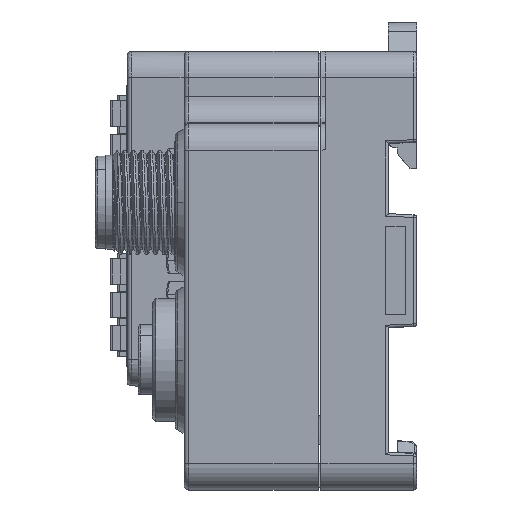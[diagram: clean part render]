
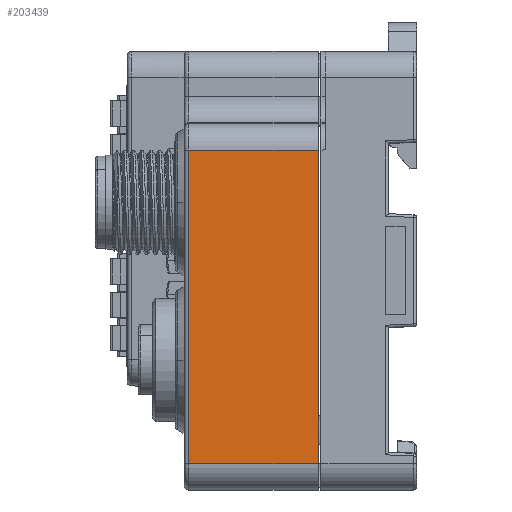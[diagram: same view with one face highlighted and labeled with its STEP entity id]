
A CAD part, left-side view. The second image highlights one B-rep face of the part: STEP entity #203439.
In plain terms, the highlighted planar face has unit normal (-1, 0, 0).
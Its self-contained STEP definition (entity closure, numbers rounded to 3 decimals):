
#197792=DIRECTION('',(0.,0.,-1.));
#197793=VECTOR('',#197792,35.752);
#197794=CARTESIAN_POINT('',(-85.5,-7.7,13.752));
#197795=LINE('',#197794,#197793);
#197796=DIRECTION('',(0.,-1.,0.));
#197797=VECTOR('',#197796,14.8);
#197798=CARTESIAN_POINT('',(-85.5,7.1,-22.));
#197799=LINE('',#197798,#197797);
#197800=DIRECTION('',(0.,0.,1.));
#197801=VECTOR('',#197800,35.752);
#197802=CARTESIAN_POINT('',(-85.5,7.1,-22.));
#197803=LINE('',#197802,#197801);
#197804=DIRECTION('',(0.,1.,0.));
#197805=VECTOR('',#197804,14.8);
#197806=CARTESIAN_POINT('',(-85.5,-7.7,13.752));
#197807=LINE('',#197806,#197805);
#201734=CARTESIAN_POINT('',(-85.5,7.1,-22.));
#201735=CARTESIAN_POINT('',(-85.5,7.1,13.752));
#201736=VERTEX_POINT('',#201734);
#201737=VERTEX_POINT('',#201735);
#201782=CARTESIAN_POINT('',(-85.5,-7.7,-22.));
#201783=CARTESIAN_POINT('',(-85.5,-7.7,13.752));
#201784=VERTEX_POINT('',#201782);
#201785=VERTEX_POINT('',#201783);
#203424=CARTESIAN_POINT('',(-85.5,14.6,-25.));
#203425=DIRECTION('',(-1.,0.,0.));
#203426=DIRECTION('',(0.,0.,1.));
#203427=AXIS2_PLACEMENT_3D('',#203424,#203425,#203426);
#203428=PLANE('',#203427);
#203430=ORIENTED_EDGE('',*,*,#203429,.T.);
#203432=ORIENTED_EDGE('',*,*,#203431,.F.);
#203434=ORIENTED_EDGE('',*,*,#203433,.T.);
#203436=ORIENTED_EDGE('',*,*,#203435,.F.);
#203437=EDGE_LOOP('',(#203430,#203432,#203434,#203436));
#203438=FACE_OUTER_BOUND('',#203437,.F.);
#203429=EDGE_CURVE('',#201785,#201784,#197795,.T.);
#203431=EDGE_CURVE('',#201736,#201784,#197799,.T.);
#203433=EDGE_CURVE('',#201736,#201737,#197803,.T.);
#203435=EDGE_CURVE('',#201785,#201737,#197807,.T.);
#203439=ADVANCED_FACE('',(#203438),#203428,.T.);
